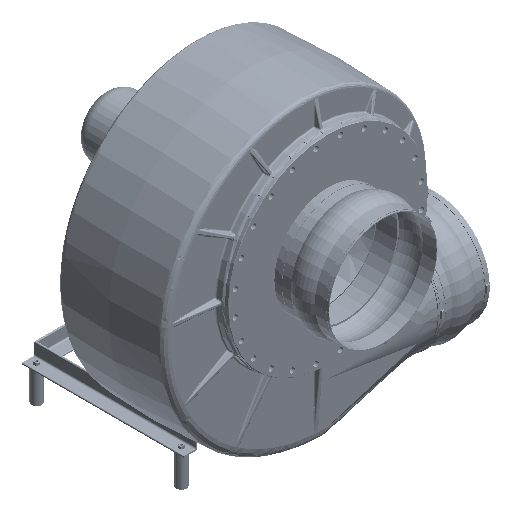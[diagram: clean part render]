
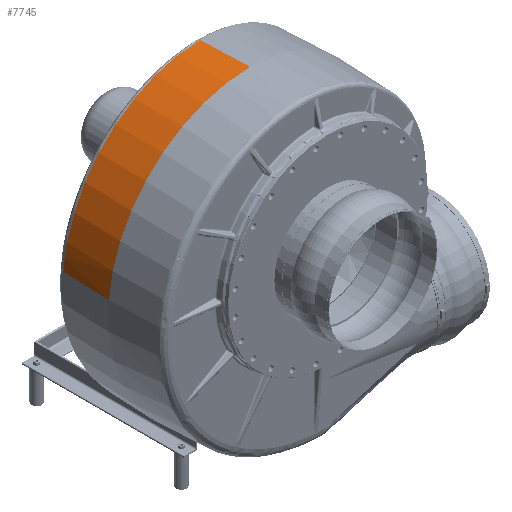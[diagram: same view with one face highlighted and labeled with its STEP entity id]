
A CAD part, isometric view. The second image highlights one B-rep face of the part: STEP entity #7745.
In plain terms, the highlighted face is a revolution surface.
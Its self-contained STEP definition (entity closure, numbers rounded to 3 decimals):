
#7745 = ADVANCED_FACE( '', ( #16384 ), #16385, .F. );
#16384 = FACE_OUTER_BOUND( '', #62754, .T. );
#16385 = SURFACE_OF_REVOLUTION( '', #62755, #62756 );
#62754 = EDGE_LOOP( '', ( #110887, #110888, #110889, #110890 ) );
#62755 = B_SPLINE_CURVE_WITH_KNOTS( '', 1, ( #110891, #110892 ), .UNSPECIFIED., .F., .F., ( 2, 2 ), ( 0., 1. ), .UNSPECIFIED. );
#62756 = AXIS1_PLACEMENT( '', #110893, #110894 );
#110887 = ORIENTED_EDGE( '', *, *, #127853, .F. );
#110888 = ORIENTED_EDGE( '', *, *, #125684, .T. );
#110889 = ORIENTED_EDGE( '', *, *, #125930, .F. );
#110890 = ORIENTED_EDGE( '', *, *, #122492, .F. );
#110891 = CARTESIAN_POINT( '', ( 0., -272.837, -317.921 ) );
#110892 = CARTESIAN_POINT( '', ( -157.5, -269.061, -313.923 ) );
#110893 = CARTESIAN_POINT( '', ( -78.75, 33.18, -33.179 ) );
#110894 = DIRECTION( '', ( 1., 0., 0. ) );
#122492 = EDGE_CURVE( '', #131040, #131043, #131044, .F. );
#125684 = EDGE_CURVE( '', #136007, #136005, #136008, .F. );
#125930 = EDGE_CURVE( '', #131043, #136005, #136340, .F. );
#127853 = EDGE_CURVE( '', #136007, #131040, #138886, .T. );
#131040 = VERTEX_POINT( '', #146776 );
#131043 = VERTEX_POINT( '', #146812 );
#131044 = B_SPLINE_CURVE_WITH_KNOTS( '', 1, ( #146813, #146814 ), .UNSPECIFIED., .F., .F., ( 2, 2 ), ( 0.122, 1. ), .UNSPECIFIED. );
#136005 = VERTEX_POINT( '', #162244 );
#136007 = VERTEX_POINT( '', #162317 );
#136008 = B_SPLINE_CURVE_WITH_KNOTS( '', 1, ( #162318, #162319 ), .UNSPECIFIED., .F., .F., ( 2, 2 ), ( 0.069, 1. ), .UNSPECIFIED. );
#136340 = B_SPLINE_CURVE_WITH_KNOTS( '', 3, ( #163188, #163189, #163190, #163191, #163192, #163193, #163194, #163195, #163196, #163197, #163198, #163199, #163200, #163201, #163202, #163203, #163204, #163205, #163206, #163207, #163208, #163209, #163210, #163211, #163212, #163213, #163214, #163215, #163216, #163217, #163218, #163219, #163220, #163221, #163222, #163223, #163224, #163225, #163226, #163227, #163228, #163229, #163230, #163231 ), .UNSPECIFIED., .F., .F., ( 4, 2, 2, 2, 2, 2, 2, 2, 2, 2, 2, 2, 2, 2, 2, 2, 2, 2, 2, 2, 2, 4 ), ( 0., 0.031, 0.047, 0.055, 0.063, 0.125, 0.188, 0.25, 0.313, 0.375, 0.438, 0.5, 0.563, 0.625, 0.688, 0.75, 0.813, 0.875, 0.906, 0.922, 0.938, 1. ), .UNSPECIFIED. );
#138886 = CIRCLE( '', #171617, 418. );
#146776 = CARTESIAN_POINT( '', ( 0., 0., -449.861 ) );
#146812 = CARTESIAN_POINT( '', ( -138.271, 0.072, -445.033 ) );
#146813 = CARTESIAN_POINT( '', ( -138.271, 0.072, -445.033 ) );
#146814 = CARTESIAN_POINT( '', ( 0., 0., -449.861 ) );
#162244 = CARTESIAN_POINT( '', ( -146.595, -379.703, -35.932 ) );
#162317 = CARTESIAN_POINT( '', ( 0., -384.809, -36.301 ) );
#162318 = CARTESIAN_POINT( '', ( -146.595, -379.703, -35.932 ) );
#162319 = CARTESIAN_POINT( '', ( 0., -384.809, -36.301 ) );
#163188 = CARTESIAN_POINT( '', ( -146.595, -379.703, -35.932 ) );
#163189 = CARTESIAN_POINT( '', ( -146.595, -379.66, -42.314 ) );
#163190 = CARTESIAN_POINT( '', ( -146.586, -379.47, -48.69 ) );
#163191 = CARTESIAN_POINT( '', ( -146.563, -378.964, -58.246 ) );
#163192 = CARTESIAN_POINT( '', ( -146.553, -378.758, -61.43 ) );
#163193 = CARTESIAN_POINT( '', ( -146.536, -378.394, -66.204 ) );
#163194 = CARTESIAN_POINT( '', ( -146.529, -378.264, -67.795 ) );
#163195 = CARTESIAN_POINT( '', ( -146.516, -377.984, -70.977 ) );
#163196 = CARTESIAN_POINT( '', ( -146.509, -377.835, -72.569 ) );
#163197 = CARTESIAN_POINT( '', ( -146.44, -376.411, -86.869 ) );
#163198 = CARTESIAN_POINT( '', ( -146.351, -374.561, -99.493 ) );
#163199 = CARTESIAN_POINT( '', ( -146.123, -369.689, -124.573 ) );
#163200 = CARTESIAN_POINT( '', ( -145.985, -366.679, -136.973 ) );
#163201 = CARTESIAN_POINT( '', ( -145.668, -359.509, -161.496 ) );
#163202 = CARTESIAN_POINT( '', ( -145.489, -355.365, -173.564 ) );
#163203 = CARTESIAN_POINT( '', ( -145.099, -345.956, -197.32 ) );
#163204 = CARTESIAN_POINT( '', ( -144.888, -340.713, -208.954 ) );
#163205 = CARTESIAN_POINT( '', ( -144.441, -329.145, -231.738 ) );
#163206 = CARTESIAN_POINT( '', ( -144.205, -322.847, -242.837 ) );
#163207 = CARTESIAN_POINT( '', ( -143.717, -309.22, -264.454 ) );
#163208 = CARTESIAN_POINT( '', ( -143.465, -301.922, -274.923 ) );
#163209 = CARTESIAN_POINT( '', ( -142.953, -286.35, -295.187 ) );
#163210 = CARTESIAN_POINT( '', ( -142.693, -278.113, -304.936 ) );
#163211 = CARTESIAN_POINT( '', ( -142.173, -260.732, -323.673 ) );
#163212 = CARTESIAN_POINT( '', ( -141.913, -251.626, -332.617 ) );
#163213 = CARTESIAN_POINT( '', ( -141.401, -232.583, -349.665 ) );
#163214 = CARTESIAN_POINT( '', ( -141.149, -222.688, -357.728 ) );
#163215 = CARTESIAN_POINT( '', ( -140.661, -202.145, -372.938 ) );
#163216 = CARTESIAN_POINT( '', ( -140.425, -191.545, -380.05 ) );
#163217 = CARTESIAN_POINT( '', ( -139.978, -169.679, -393.293 ) );
#163218 = CARTESIAN_POINT( '', ( -139.767, -158.465, -399.392 ) );
#163219 = CARTESIAN_POINT( '', ( -139.377, -135.465, -410.551 ) );
#163220 = CARTESIAN_POINT( '', ( -139.198, -123.733, -415.585 ) );
#163221 = CARTESIAN_POINT( '', ( -138.881, -99.797, -424.564 ) );
#163222 = CARTESIAN_POINT( '', ( -138.743, -87.648, -428.489 ) );
#163223 = CARTESIAN_POINT( '', ( -138.572, -69.148, -433.53 ) );
#163224 = CARTESIAN_POINT( '', ( -138.521, -62.95, -435.065 ) );
#163225 = CARTESIAN_POINT( '', ( -138.455, -53.604, -437.151 ) );
#163226 = CARTESIAN_POINT( '', ( -138.435, -50.48, -437.81 ) );
#163227 = CARTESIAN_POINT( '', ( -138.397, -44.217, -439.056 ) );
#163228 = CARTESIAN_POINT( '', ( -138.38, -41.079, -439.642 ) );
#163229 = CARTESIAN_POINT( '', ( -138.304, -25.328, -442.397 ) );
#163230 = CARTESIAN_POINT( '', ( -138.272, -12.666, -444.009 ) );
#163231 = CARTESIAN_POINT( '', ( -138.272, 0.072, -445.033 ) );
#171617 = AXIS2_PLACEMENT_3D( '', #183422, #183423, #183424 );
#183422 = CARTESIAN_POINT( '', ( 0., 33.18, -33.179 ) );
#183423 = DIRECTION( '', ( 1., 0., 0. ) );
#183424 = DIRECTION( '', ( 0., 0., -1. ) );
